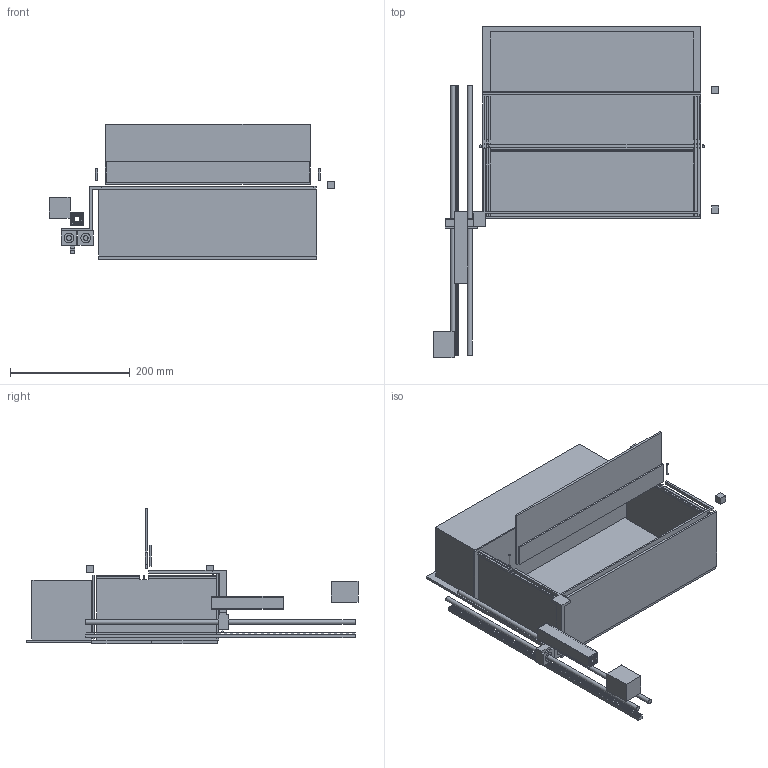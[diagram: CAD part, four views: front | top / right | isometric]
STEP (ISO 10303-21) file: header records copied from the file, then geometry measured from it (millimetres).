
FILE_DESCRIPTION(('FreeCAD Model'),'2;1');
FILE_NAME('Open CASCADE Shape Model','2026-10-19T11:27:51',('FreeCAD'),( 'FreeCAD'),'Open CASCADE STEP processor 7.8','FreeCAD','Unknown');
FILE_SCHEMA(('AUTOMOTIVE_DESIGN { 1 0 10303 214 1 1 1 1 }'));
Length unit declared in the file: millimetre
Products named in the file (1): Open CASCADE STEP translator 7.8 24
Bounding box: 477.5 x 555 x 226 mm (x, y, z)
Volume: 4927048.8 mm3; surface area: 963638.9 mm2
Topology: 29 solids, 29 shells, 1170 faces, 3333 edges, 2222 vertices
Faces by surface type: plane 1160, cylinder 10
Full cylindrical faces by diameter (mm): 4 x2, 8 x2, 8.5 x2, 16 x4
Entity records: 37259 total; most frequent: CARTESIAN_POINT 6726, ORIENTED_EDGE 6666, DIRECTION 5695, EDGE_CURVE 3333, LINE 3313, VECTOR 3313, VERTEX_POINT 2222, AXIS2_PLACEMENT_3D 1191
